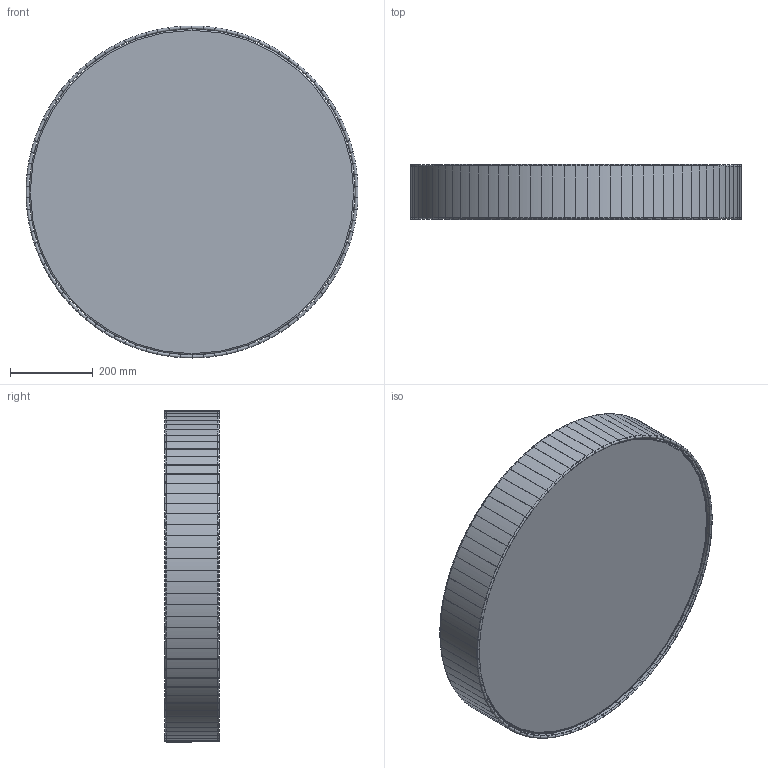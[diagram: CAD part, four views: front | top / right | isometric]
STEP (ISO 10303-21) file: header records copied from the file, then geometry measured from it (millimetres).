
FILE_DESCRIPTION (( 'STEP AP203' ), '1' );
FILE_NAME ('PLTES080POXXXXX-PER 3D.STEP', '2025-06-25T10:34:13', ( '' ), ( '' ), 'SwSTEP 2.0', 'SolidWorks 2024', '' );
FILE_SCHEMA (( 'CONFIG_CONTROL_DESIGN' ));
Length unit declared in the file: millimetre
Products named in the file (4): PSPPLTESSY80H13PON-01; RIVESTIMENTO PONGÈ PARALUME Ø800; TSPTESSYP80DWBC; PLTES080POXXXXX-PER 3D
Assembly tree (92 placements, depth 3):
  PLTES080POXXXXX-PER 3D
    PSPPLTESSY80H13PON-01
      RIVESTIMENTO PONGÈ PARALUME Ø800  x90
    TSPTESSYP80DWBC
Bounding box: 801.95 x 132 x 802 mm (x, y, z)
Volume: 744859.9 mm3; surface area: 2418003.9 mm2
Topology: 91 solids, 91 shells, 916 faces, 2190 edges, 1456 vertices
Faces by surface type: torus 372, cylinder 360, plane 182, cone 2
Entity records: 3976 total; most frequent: DIRECTION 342, CARTESIAN_POINT 208, COORDINATED_UNIVERSAL_TIME_OFFSET 204, DATE_AND_TIME 204, LOCAL_TIME 204, CALENDAR_DATE 204, AXIS2_PLACEMENT_3D 166, PERSON_AND_ORGANIZATION 124
